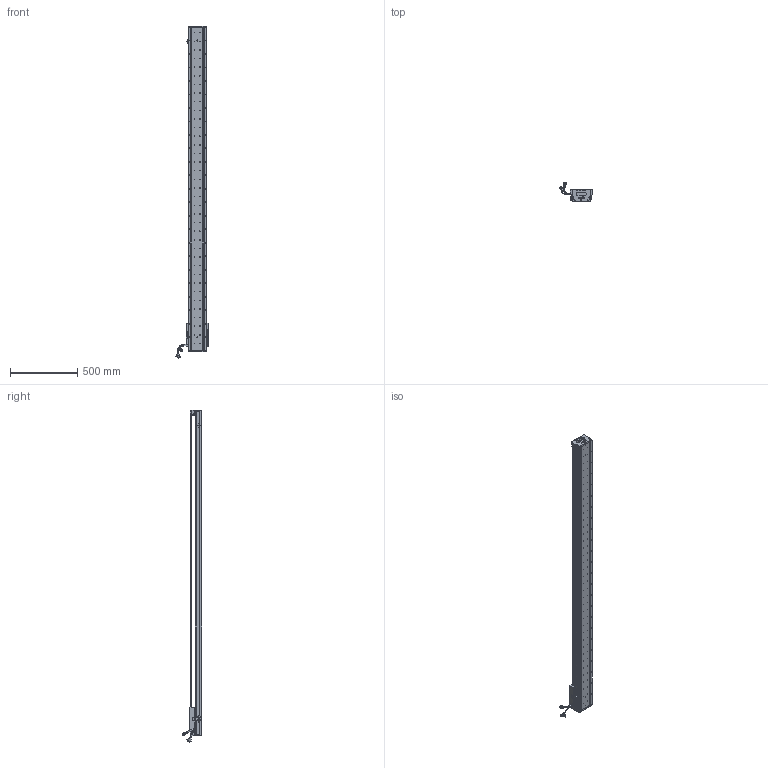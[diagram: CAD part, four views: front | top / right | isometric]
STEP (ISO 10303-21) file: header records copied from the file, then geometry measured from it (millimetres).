
FILE_DESCRIPTION (( 'STEP AP203' ), '1' );
FILE_NAME ('Z2-RY140D-1-L500-B-K.SLDASM_2150.step', '2021-05-17T07:48:43', ( '盈信电脑' ), ( '东莞市道滘镇水果街19号' ), 'SwSTEP 2.0', 'SolidWorks 2016', '' );
FILE_SCHEMA (( 'CONFIG_CONTROL_DESIGN' ));
Length unit declared in the file: millimetre
Products named in the file (36): SCREW-M1.7; PBU_SHEET; 140雄赽晤鎢ん堤盄; HARNESS; SEAL; PSLH080_PSLF2; SEAL-Part-1; Z-140詩湍傷裔啣; SHIELDPLATE; 140-Z-臏賑輸盄裔(21遴); 覜茼ん672; Z2-RY140圉猾敕臏賑輸(21遴); HARNESS-Part-2; COVER-Part-1; Z2-RY140-L500詩湍100mm遵_2150; LABEL-Part-1; SCREW-M1.6; Z-RY140詩湍奻揤裔; Z2-RY140D-1-L500-B-K.SLDASM_2150; SCREW-M1.7-1; SCREW-M1.6-3; SCREW-M1.6-1; 榋妏寠巭燃_暯_M2_2; HARNESS-Part-1; SCALE-Part-2; Z2-RY140-L500直线电机模组底座_2150; Z-RY140詩湍狟揤裔; 140蚥薯蝶輸; HOLDER0; 080黍杅芛假蚾釱21遴; Z-RY140感应器672光电感应片; LABEL; SCALE; SCREW-M1.6-2; SCALE-Part-1; COVER
Assembly tree (41 placements, depth 4):
  Z2-RY140D-1-L500-B-K.SLDASM_2150
    Z2-RY140-L500直线电机模组底座_2150
    Z-RY140感应器672光电感应片
    Z2-RY140圉猾敕臏賑輸(21遴)
    覜茼ん672  x3
    Z2-RY140-L500詩湍100mm遵_2150
    PSLH080_PSLF2
      SCALE
        SCALE-Part-1
        SCALE-Part-2
      HARNESS
        HARNESS-Part-1
        HARNESS-Part-2
      LABEL
        LABEL-Part-1
      COVER
        COVER-Part-1
      SEAL
        SEAL-Part-1
      榋妏寠巭燃_暯_M2_2
      SHIELDPLATE
      SCREW-M1.7
      SCREW-M1.7-1
      PBU_SHEET
      SCREW-M1.6
      SCREW-M1.6-1
      SCREW-M1.6-2
      SCREW-M1.6-3
      HOLDER0
    080黍杅芛假蚾釱21遴
    140-Z-臏賑輸盄裔(21遴)
    Z-140詩湍傷裔啣  x2
    Z-RY140詩湍狟揤裔  x2
    Z-RY140詩湍奻揤裔  x2
    140蚥薯蝶輸  x2
    140雄赽晤鎢ん堤盄
Bounding box: 239.84 x 143.77 x 2460.87 mm (x, y, z)
Volume: 7777987.1 mm3; surface area: 2042744.4 mm2
Topology: 36 solids, 36 shells, 3916 faces, 10616 edges, 6725 vertices
Faces by surface type: cylinder 2078, plane 1332, cone 374, torus 79, bspline 53
Entity records: 123320 total; most frequent: CARTESIAN_POINT 34701, ORIENTED_EDGE 18192, DIRECTION 16904, EDGE_CURVE 9096, AXIS2_PLACEMENT_3D 6276, VERTEX_POINT 5893, VECTOR 4352, LINE 4352
